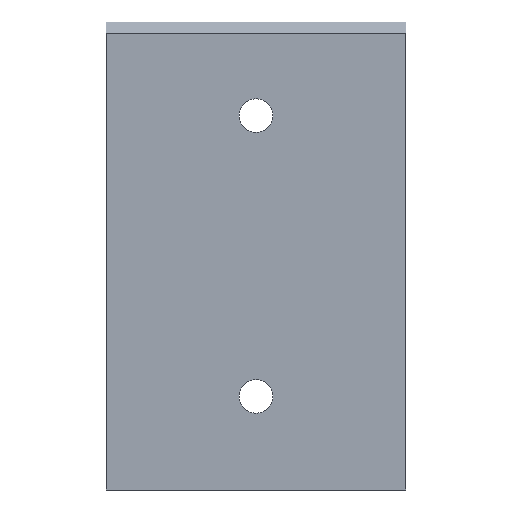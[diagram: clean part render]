
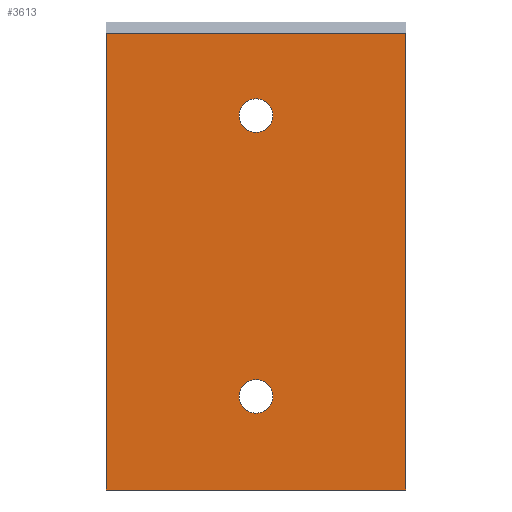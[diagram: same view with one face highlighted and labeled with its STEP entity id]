
A CAD part, front view. The second image highlights one B-rep face of the part: STEP entity #3613.
In plain terms, the highlighted planar face has unit normal (0, -1, 0).
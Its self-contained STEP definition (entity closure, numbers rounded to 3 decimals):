
#6 = DIRECTION ( 'NONE',  ( 1., 0., 0. ) ) ;
#112 = CARTESIAN_POINT ( 'NONE',  ( 35.5, 0., 100. ) ) ;
#151 = VERTEX_POINT ( 'NONE', #112 ) ;
#228 = DIRECTION ( 'NONE',  ( 0., -1., 0. ) ) ;
#243 = CARTESIAN_POINT ( 'NONE',  ( 40., 0., 25. ) ) ;
#314 = AXIS2_PLACEMENT_3D ( 'NONE', #1192, #3931, #1513 ) ;
#375 = FACE_BOUND ( 'NONE', #1314, .T. ) ;
#469 = FACE_OUTER_BOUND ( 'NONE', #2437, .T. ) ;
#485 = ORIENTED_EDGE ( 'NONE', *, *, #796, .F. ) ;
#499 = DIRECTION ( 'NONE',  ( 0., -1., 0. ) ) ;
#543 = VERTEX_POINT ( 'NONE', #3224 ) ;
#703 = ORIENTED_EDGE ( 'NONE', *, *, #2147, .F. ) ;
#724 = AXIS2_PLACEMENT_3D ( 'NONE', #3022, #2978, #3585 ) ;
#796 = EDGE_CURVE ( 'NONE', #1237, #1241, #896, .T. ) ;
#857 = EDGE_CURVE ( 'NONE', #543, #151, #4393, .T. ) ;
#896 = LINE ( 'NONE', #3251, #2581 ) ;
#900 = DIRECTION ( 'NONE',  ( 1., 0., 0. ) ) ;
#943 = EDGE_CURVE ( 'NONE', #1241, #3214, #1772, .T. ) ;
#1192 = CARTESIAN_POINT ( 'NONE',  ( 40., 0., 100. ) ) ;
#1236 = LINE ( 'NONE', #1652, #3753 ) ;
#1237 = VERTEX_POINT ( 'NONE', #2575 ) ;
#1241 = VERTEX_POINT ( 'NONE', #2810 ) ;
#1300 = CIRCLE ( 'NONE', #1315, 4.5 ) ;
#1314 = EDGE_LOOP ( 'NONE', ( #3157, #4084 ) ) ;
#1315 = AXIS2_PLACEMENT_3D ( 'NONE', #3707, #1656, #4039 ) ;
#1341 = FACE_BOUND ( 'NONE', #3988, .T. ) ;
#1413 = DIRECTION ( 'NONE',  ( 1., 0., 0. ) ) ;
#1513 = DIRECTION ( 'NONE',  ( 1., 0., 0. ) ) ;
#1514 = EDGE_CURVE ( 'NONE', #1237, #3103, #1236, .T. ) ;
#1594 = AXIS2_PLACEMENT_3D ( 'NONE', #243, #228, #6 ) ;
#1603 = EDGE_CURVE ( 'NONE', #1962, #2731, #2718, .T. ) ;
#1627 = DIRECTION ( 'NONE',  ( 0., 0., -1. ) ) ;
#1652 = CARTESIAN_POINT ( 'NONE',  ( 0., 0., 61. ) ) ;
#1656 = DIRECTION ( 'NONE',  ( 0., -1., 0. ) ) ;
#1772 = LINE ( 'NONE', #2318, #3382 ) ;
#1813 = LINE ( 'NONE', #2765, #2495 ) ;
#1891 = CARTESIAN_POINT ( 'NONE',  ( 80., 0., 0. ) ) ;
#1962 = VERTEX_POINT ( 'NONE', #4053 ) ;
#2147 = EDGE_CURVE ( 'NONE', #151, #543, #2930, .T. ) ;
#2187 = DIRECTION ( 'NONE',  ( 0., 0., -1. ) ) ;
#2303 = EDGE_CURVE ( 'NONE', #3103, #3214, #1813, .T. ) ;
#2318 = CARTESIAN_POINT ( 'NONE',  ( 80., 0., 61. ) ) ;
#2437 = EDGE_LOOP ( 'NONE', ( #2959, #3879, #3059, #485 ) ) ;
#2495 = VECTOR ( 'NONE', #1413, 1000. ) ;
#2500 = CARTESIAN_POINT ( 'NONE',  ( 0., 0., 125. ) ) ;
#2575 = CARTESIAN_POINT ( 'NONE',  ( 0., 0., 122. ) ) ;
#2581 = VECTOR ( 'NONE', #900, 1000. ) ;
#2718 = CIRCLE ( 'NONE', #1594, 4.5 ) ;
#2731 = VERTEX_POINT ( 'NONE', #3063 ) ;
#2765 = CARTESIAN_POINT ( 'NONE',  ( 40., 0., 0. ) ) ;
#2810 = CARTESIAN_POINT ( 'NONE',  ( 80., 0., 122. ) ) ;
#2823 = PLANE ( 'NONE',  #4166 ) ;
#2841 = DIRECTION ( 'NONE',  ( 0., 0., -1. ) ) ;
#2930 = CIRCLE ( 'NONE', #314, 4.5 ) ;
#2959 = ORIENTED_EDGE ( 'NONE', *, *, #1514, .T. ) ;
#2978 = DIRECTION ( 'NONE',  ( 0., -1., 0. ) ) ;
#3022 = CARTESIAN_POINT ( 'NONE',  ( 40., 0., 100. ) ) ;
#3059 = ORIENTED_EDGE ( 'NONE', *, *, #943, .F. ) ;
#3063 = CARTESIAN_POINT ( 'NONE',  ( 44.5, 0., 25. ) ) ;
#3103 = VERTEX_POINT ( 'NONE', #3221 ) ;
#3157 = ORIENTED_EDGE ( 'NONE', *, *, #1603, .F. ) ;
#3214 = VERTEX_POINT ( 'NONE', #1891 ) ;
#3221 = CARTESIAN_POINT ( 'NONE',  ( 0., 0., 0. ) ) ;
#3224 = CARTESIAN_POINT ( 'NONE',  ( 44.5, 0., 100. ) ) ;
#3251 = CARTESIAN_POINT ( 'NONE',  ( 40., 0., 122. ) ) ;
#3279 = ORIENTED_EDGE ( 'NONE', *, *, #857, .F. ) ;
#3382 = VECTOR ( 'NONE', #2187, 1000. ) ;
#3585 = DIRECTION ( 'NONE',  ( 1., 0., 0. ) ) ;
#3613 = ADVANCED_FACE ( 'NONE', ( #469, #375, #1341 ), #2823, .T. ) ;
#3707 = CARTESIAN_POINT ( 'NONE',  ( 40., 0., 25. ) ) ;
#3753 = VECTOR ( 'NONE', #1627, 1000. ) ;
#3879 = ORIENTED_EDGE ( 'NONE', *, *, #2303, .T. ) ;
#3931 = DIRECTION ( 'NONE',  ( 0., -1., 0. ) ) ;
#3988 = EDGE_LOOP ( 'NONE', ( #3279, #703 ) ) ;
#4039 = DIRECTION ( 'NONE',  ( 1., 0., 0. ) ) ;
#4053 = CARTESIAN_POINT ( 'NONE',  ( 35.5, 0., 25. ) ) ;
#4084 = ORIENTED_EDGE ( 'NONE', *, *, #4115, .F. ) ;
#4115 = EDGE_CURVE ( 'NONE', #2731, #1962, #1300, .T. ) ;
#4166 = AXIS2_PLACEMENT_3D ( 'NONE', #2500, #499, #2841 ) ;
#4393 = CIRCLE ( 'NONE', #724, 4.5 ) ;
